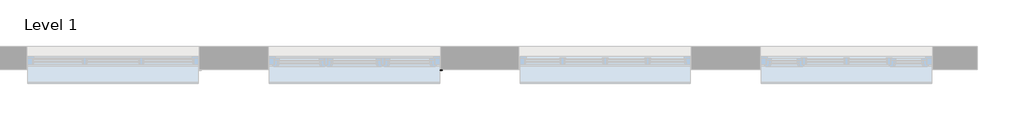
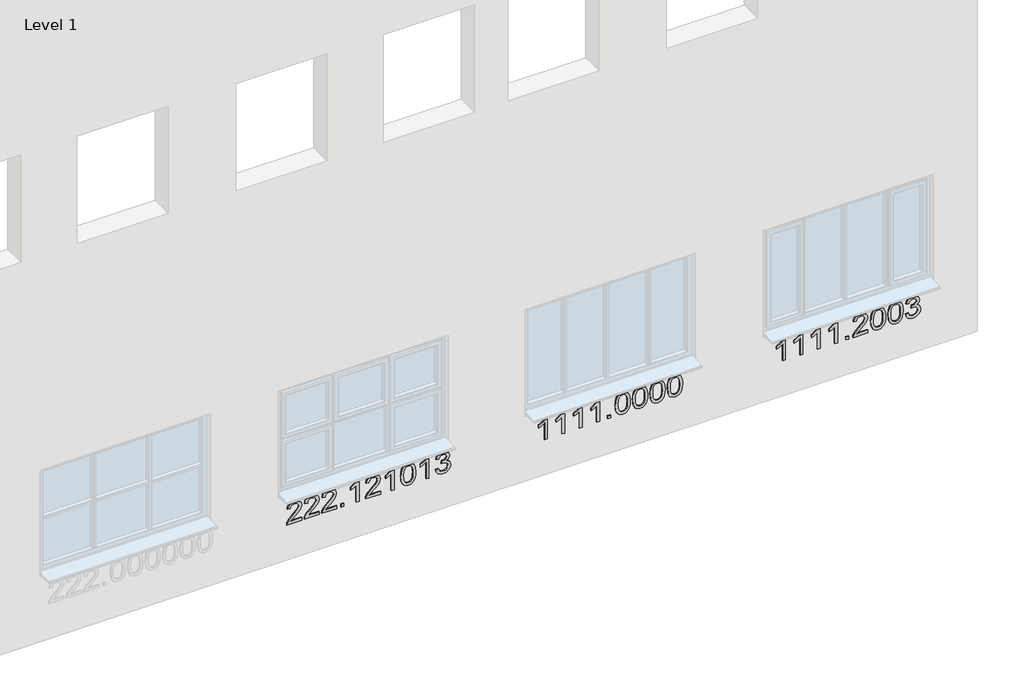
# One storey, part 2 of 2: 3 proxies.
"""IFC4 building model written with IfcOpenShell, lengths in millimetres."""

from ifc_helpers import new_model, si_unit, frame, origin, place, context, project, spatial, polyline, outline, extrude, element, save

model = new_model("IFC4")

# Units and contexts
model_context = context("Model", 3, world=origin())
ifc_project = project(units=[si_unit("LENGTHUNIT", "METRE", prefix="MILLI")], contexts=[model_context])

# Site, building, storey
site = spatial("IfcSite", under=ifc_project)
building = spatial("IfcBuilding", under=site)
storey = spatial("IfcBuildingStorey", under=building, Name="Level 1", Elevation=0.0)

# Proxies
placement = place(None, origin())
element("IfcBuildingElementProxy", 1, Name="200mm Arial", ObjectType="200mm Arial", at=placement, inside=storey, context=model_context, shape_type="SweptSolid", body=[
    extrude(outline(polyline([(359.434856, -158602.2452174), (359.434856, -158700.8866431), (372.212624, -158689.5558776), (396.3702083, -158660.6648783), (430.7794376, -158624.6860191), (455.4030058, -158609.848112), (479.2172337, -158605.3844771), (501.1184751, -158609.5231496), (519.1446929, -158621.9391669), (531.2112223, -158641.4553067), (535.2333988, -158666.8943467), (531.6158925, -158692.1494457), (520.7633736, -158711.7023737), (503.0191987, -158724.8664178), (478.7267243, -158730.9548648), (475.5874646, -158705.8407873), (490.0207016, -158703.1245919), (500.9467968, -158695.2703113), (507.8261901, -158683.0995486), (510.1193212, -158667.433907), (507.7710078, -158652.5162921), (500.7260676, -158640.7256741), (490.2720876, -158633.0553345), (477.6966547, -158630.4985546), (463.668088, -158633.2086187), (449.2471138, -158641.3388108), (407.4066682, -158684.6998353), (378.2949396, -158716.1414831), (351.6357577, -158731.3963232), (334.3207785, -158734.0941245), (334.3207785, -158602.2452174), (359.434856, -158602.2452174)])), frame((0.0, 24202.6264647, 0.0), z_axis=(0.0, 1.0, 0.0), x_axis=(0.0, 0.0, 1.0)), (0.0, 0.0, 1.0), 10.0),
    extrude(outline(polyline([(359.434856, -158448.4214925), (359.434856, -158547.0629181), (372.212624, -158535.7321527), (396.3702083, -158506.8411533), (430.7794376, -158470.8622942), (455.4030058, -158456.0243871), (479.2172337, -158451.5607522), (501.1184751, -158455.6994246), (519.1446929, -158468.115442), (531.2112223, -158487.6315818), (535.2333988, -158513.0706218), (531.6158925, -158538.3257208), (520.7633736, -158557.8786488), (503.0191987, -158571.0426929), (478.7267243, -158577.1311399), (475.5874646, -158552.0170623), (490.0207016, -158549.3008669), (500.9467968, -158541.4465863), (507.8261901, -158529.2758237), (510.1193212, -158513.610182), (507.7710078, -158498.6925671), (500.7260676, -158486.9019492), (490.2720876, -158479.2316096), (477.6966547, -158476.6748297), (463.668088, -158479.3848938), (449.2471138, -158487.5150859), (407.4066682, -158530.8761104), (378.2949396, -158562.3177582), (351.6357577, -158577.5725983), (334.3207785, -158580.2703996), (334.3207785, -158448.4214925), (359.434856, -158448.4214925)])), frame((0.0, 24202.6264647, 0.0), z_axis=(0.0, 1.0, 0.0), x_axis=(0.0, 0.0, 1.0)), (0.0, 0.0, 1.0), 10.0),
    extrude(outline(polyline([(359.434856, -158294.5977676), (359.434856, -158393.2391932), (372.212624, -158381.9084278), (396.3702083, -158353.0174284), (430.7794376, -158317.0385693), (455.4030058, -158302.2006622), (479.2172337, -158297.7370273), (501.1184751, -158301.8756997), (519.1446929, -158314.2917171), (531.2112223, -158333.8078569), (535.2333988, -158359.2468969), (531.6158925, -158384.5019958), (520.7633736, -158404.0549239), (503.0191987, -158417.2189679), (478.7267243, -158423.307415), (475.5874646, -158398.1933374), (490.0207016, -158395.477142), (500.9467968, -158387.6228614), (507.8261901, -158375.4520988), (510.1193212, -158359.7864571), (507.7710078, -158344.8688422), (500.7260676, -158333.0782243), (490.2720876, -158325.4078847), (477.6966547, -158322.8511048), (463.668088, -158325.5611688), (449.2471138, -158333.6913609), (407.4066682, -158377.0523854), (378.2949396, -158408.4940333), (351.6357577, -158423.7488734), (334.3207785, -158426.4466747), (334.3207785, -158294.5977676), (359.434856, -158294.5977676)])), frame((0.0, 24202.6264647, 0.0), z_axis=(0.0, 1.0, 0.0), x_axis=(0.0, 0.0, 1.0)), (0.0, 0.0, 1.0), 10.0),
    extrude(outline(polyline([(-158231.8125737, 24202.6264647), (-158256.9266513, 24202.6264647), (-158256.9266513, 24212.6264647), (-158231.8125737, 24212.6264647), (-158231.8125737, 24202.6264647)])), frame((0.0, 0.0, 334.3207785), z_axis=(0.0, 0.0, 1.0), x_axis=(1.0, 0.0, 0.0)), (0.0, 0.0, 1.0), 25.1140775),
    extrude(outline(polyline([(334.3207785, -158096.824407), (535.2333988, -158096.824407), (535.2333988, -158113.0112148), (522.0754861, -158121.8833022), (508.5006405, -158135.3539146), (485.0052437, -158172.1666396), (461.2645923, -158172.1666396), (473.9442584, -158145.7281869), (490.8913556, -158121.9384845), (334.3207785, -158121.9384845), (334.3207785, -158096.824407)])), frame((0.0, 24202.6264647, 0.0), z_axis=(0.0, 1.0, 0.0), x_axis=(0.0, 0.0, 1.0)), (0.0, 0.0, 1.0), 10.0),
    extrude(outline(polyline([(359.434856, -157908.4688254), (359.434856, -158007.1102511), (372.212624, -157995.7794856), (396.3702083, -157966.8884863), (430.7794376, -157930.9096272), (455.4030058, -157916.07172), (479.2172337, -157911.6080851), (501.1184751, -157915.7467576), (519.1446929, -157928.1627749), (531.2112223, -157947.6789148), (535.2333988, -157973.1179547), (531.6158925, -157998.3730537), (520.7633736, -158017.9259817), (503.0191987, -158031.0900258), (478.7267243, -158037.1784728), (475.5874646, -158012.0643953), (490.0207016, -158009.3481999), (500.9467968, -158001.4939193), (507.8261901, -157989.3231566), (510.1193212, -157973.657515), (507.7710078, -157958.7399001), (500.7260676, -157946.9492821), (490.2720876, -157939.2789425), (477.6966547, -157936.7221627), (463.668088, -157939.4322267), (449.2471138, -157947.5624188), (407.4066682, -157990.9234433), (378.2949396, -158022.3650912), (351.6357577, -158037.6199312), (334.3207785, -158040.3177325), (334.3207785, -157908.4688254), (359.434856, -157908.4688254)])), frame((0.0, 24202.6264647, 0.0), z_axis=(0.0, 1.0, 0.0), x_axis=(0.0, 0.0, 1.0)), (0.0, 0.0, 1.0), 10.0),
    extrude(outline(polyline([(334.3207785, -157789.1769571), (535.2333988, -157789.1769571), (535.2333988, -157805.3637649), (522.0754861, -157814.2358524), (508.5006405, -157827.7064648), (485.0052437, -157864.5191898), (461.2645923, -157864.5191898), (473.9442584, -157838.080737), (490.8913556, -157814.2910347), (334.3207785, -157814.2910347), (334.3207785, -157789.1769571)])), frame((0.0, 24202.6264647, 0.0), z_axis=(0.0, 1.0, 0.0), x_axis=(0.0, 0.0, 1.0)), (0.0, 0.0, 1.0), 10.0),
    extrude(outline(polyline([(433.1584079, -157729.531023), (384.2914162, -157724.5278279), (365.4405296, -157718.2738339), (350.3113825, -157709.5182425), (335.9639847, -157689.7016656), (331.1815188, -157663.6065695), (333.9345024, -157643.3056147), (342.1934532, -157626.8428954), (356.0503417, -157614.108047), (375.5971383, -157604.9907049), (401.1833311, -157599.5092632), (433.1584079, -157597.6821159), (480.3699306, -157602.2438527), (510.0947958, -157614.0160765), (520.8553441, -157622.6858289), (528.7586757, -157634.2741117), (533.614718, -157648.1310002), (535.2333988, -157663.6065695), (532.4988093, -157683.7971596), (524.2950408, -157700.2230907), (510.4933346, -157712.9763332), (490.964932, -157722.1488576), (465.3174256, -157727.6854817), (433.1584079, -157729.531023)]), holes=[polyline([(433.2074588, -157704.4169455), (472.2029503, -157701.3757876), (496.6793657, -157692.2523141), (506.7593324, -157679.621699), (510.1193212, -157663.9008751), (506.3056112, -157647.2971343), (494.8644812, -157634.1760098), (471.8228055, -157625.6411476), (433.2074588, -157622.7961935), (393.7643775, -157625.7392494), (370.8882488, -157634.5684173), (359.9437594, -157647.7140673), (356.2955963, -157663.6065695), (359.9314967, -157679.4990716), (370.8391979, -157692.6447216), (393.7030639, -157701.4738895), (433.2074588, -157704.4169455)])]), frame((0.0, 24202.6264647, 0.0), z_axis=(0.0, 1.0, 0.0), x_axis=(0.0, 0.0, 1.0)), (0.0, 0.0, 1.0), 10.0),
    extrude(outline(polyline([(334.3207785, -157481.5295073), (535.2333988, -157481.5295073), (535.2333988, -157497.7163151), (522.0754861, -157506.5884026), (508.5006405, -157520.0590149), (485.0052437, -157556.8717399), (461.2645923, -157556.8717399), (473.9442584, -157530.4332872), (490.8913556, -157506.6435848), (334.3207785, -157506.6435848), (334.3207785, -157481.5295073)])), frame((0.0, 24202.6264647, 0.0), z_axis=(0.0, 1.0, 0.0), x_axis=(0.0, 0.0, 1.0)), (0.0, 0.0, 1.0), 10.0),
    extrude(outline(polyline([(387.6881933, -157421.8835732), (364.9898741, -157415.6663674), (346.9268682, -157401.9198436), (335.1178561, -157382.1523177), (331.1815188, -157357.872106), (335.7923065, -157331.0289831), (349.6246695, -157309.2626317), (370.0789084, -157294.8416575), (394.5553238, -157290.0346661), (412.5324907, -157292.4381618), (427.223245, -157299.6486489), (438.0389757, -157311.2982454), (444.3910714, -157327.0190693), (451.6383467, -157315.0506418), (461.0193376, -157306.4176776), (472.031272, -157301.1937533), (484.1713779, -157299.4524452), (497.2005318, -157301.2857238), (509.5061846, -157306.7855596), (520.1870252, -157315.7496176), (528.3417427, -157327.9755625), (533.5104848, -157342.4762445), (535.2333988, -157358.2645135), (531.7385198, -157380.1902804), (521.253883, -157398.1919727), (504.4171503, -157411.3498854), (481.865984, -157418.7443135), (478.7267243, -157393.6302359), (492.4609855, -157389.1788638), (502.271172, -157381.3184518), (508.1572839, -157370.5517721), (510.1193212, -157357.3815967), (508.175678, -157344.2359467), (502.3447484, -157333.7390471), (493.5462374, -157326.8596538), (482.6998499, -157324.5665227), (469.6768272, -157327.7303079), (460.5288283, -157337.2216633), (455.120963, -157350.6738816), (453.3183412, -157365.7202552), (453.6126468, -157369.7424317), (428.4985693, -157372.5383349), (431.2454215, -157354.92905), (428.6763789, -157339.1346497), (420.9692511, -157326.3814072), (409.3380487, -157317.9569095), (394.9967822, -157315.1487436), (379.889095, -157317.981435), (367.4301581, -157326.4795091), (359.0792368, -157339.7723118), (356.2955963, -157356.9891892), (358.3189473, -157371.6615495), (364.3890002, -157382.9126071), (375.0453154, -157391.1470325), (390.8274529, -157396.7694956), (387.6881933, -157421.8835732)])), frame((0.0, 24202.6264647, 0.0), z_axis=(0.0, 1.0, 0.0), x_axis=(0.0, 0.0, 1.0)), (0.0, 0.0, 1.0), 10.0),
])
element("IfcBuildingElementProxy", 2, Name="200mm Arial", ObjectType="200mm Arial", at=placement, inside=storey, context=model_context, shape_type="SweptSolid", body=[
    extrude(outline(polyline([(334.3207785, -156436.777074), (535.2333988, -156436.777074), (535.2333988, -156452.9638818), (522.0754861, -156461.8359693), (508.5006405, -156475.3065817), (485.0052437, -156512.1193066), (461.2645923, -156512.1193066), (473.9442584, -156485.6808539), (490.8913556, -156461.8911516), (334.3207785, -156461.8911516), (334.3207785, -156436.777074)])), frame((0.0, 24202.6264647, 0.0), z_axis=(0.0, 1.0, 0.0), x_axis=(0.0, 0.0, 1.0)), (0.0, 0.0, 1.0), 10.0),
    extrude(outline(polyline([(334.3207785, -156282.9533491), (535.2333988, -156282.9533491), (535.2333988, -156299.1401569), (522.0754861, -156308.0122444), (508.5006405, -156321.4828567), (485.0052437, -156358.2955817), (461.2645923, -156358.2955817), (473.9442584, -156331.857129), (490.8913556, -156308.0674267), (334.3207785, -156308.0674267), (334.3207785, -156282.9533491)])), frame((0.0, 24202.6264647, 0.0), z_axis=(0.0, 1.0, 0.0), x_axis=(0.0, 0.0, 1.0)), (0.0, 0.0, 1.0), 10.0),
    extrude(outline(polyline([(334.3207785, -156129.1296242), (535.2333988, -156129.1296242), (535.2333988, -156145.316432), (522.0754861, -156154.1885194), (508.5006405, -156167.6591318), (485.0052437, -156204.4718568), (461.2645923, -156204.4718568), (473.9442584, -156178.0334041), (490.8913556, -156154.2437017), (334.3207785, -156154.2437017), (334.3207785, -156129.1296242)])), frame((0.0, 24202.6264647, 0.0), z_axis=(0.0, 1.0, 0.0), x_axis=(0.0, 0.0, 1.0)), (0.0, 0.0, 1.0), 10.0),
    extrude(outline(polyline([(334.3207785, -155975.3058993), (535.2333988, -155975.3058993), (535.2333988, -155991.4927071), (522.0754861, -156000.3647945), (508.5006405, -156013.8354069), (485.0052437, -156050.6481319), (461.2645923, -156050.6481319), (473.9442584, -156024.2096792), (490.8913556, -156000.4199768), (334.3207785, -156000.4199768), (334.3207785, -155975.3058993)])), frame((0.0, 24202.6264647, 0.0), z_axis=(0.0, 1.0, 0.0), x_axis=(0.0, 0.0, 1.0)), (0.0, 0.0, 1.0), 10.0),
    extrude(outline(polyline([(-155877.9888488, 24202.6264647), (-155903.1029264, 24202.6264647), (-155903.1029264, 24212.6264647), (-155877.9888488, 24212.6264647), (-155877.9888488, 24202.6264647)])), frame((0.0, 0.0, 334.3207785), z_axis=(0.0, 0.0, 1.0), x_axis=(1.0, 0.0, 0.0)), (0.0, 0.0, 1.0), 25.1140775),
    extrude(outline(polyline([(433.1584079, -155837.1784728), (384.2914162, -155832.1752777), (365.4405296, -155825.9212838), (350.3113825, -155817.1656923), (335.9639847, -155797.3491155), (331.1815188, -155771.2540193), (333.9345024, -155750.9530645), (342.1934532, -155734.4903452), (356.0503417, -155721.7554968), (375.5971383, -155712.6381547), (401.1833311, -155707.156713), (433.1584079, -155705.3295658), (480.3699306, -155709.8913025), (510.0947958, -155721.6635263), (520.8553441, -155730.3332787), (528.7586757, -155741.9215615), (533.614718, -155755.77845), (535.2333988, -155771.2540193), (532.4988093, -155791.4446095), (524.2950408, -155807.8705405), (510.4933346, -155820.623783), (490.964932, -155829.7963075), (465.3174256, -155835.3329315), (433.1584079, -155837.1784728)]), holes=[polyline([(433.2074588, -155812.0643953), (472.2029503, -155809.0232375), (496.6793657, -155799.899764), (506.7593324, -155787.2691488), (510.1193212, -155771.5483249), (506.3056112, -155754.9445842), (494.8644812, -155741.8234597), (471.8228055, -155733.2885974), (433.2074588, -155730.4436433), (393.7643775, -155733.3866993), (370.8882488, -155742.2158671), (359.9437594, -155755.3615171), (356.2955963, -155771.2540193), (359.9314967, -155787.1465215), (370.8391979, -155800.2921714), (393.7030639, -155809.1213393), (433.2074588, -155812.0643953)])]), frame((0.0, 24202.6264647, 0.0), z_axis=(0.0, 1.0, 0.0), x_axis=(0.0, 0.0, 1.0)), (0.0, 0.0, 1.0), 10.0),
    extrude(outline(polyline([(433.1584079, -155683.3547479), (384.2914162, -155678.3515528), (365.4405296, -155672.0975589), (350.3113825, -155663.3419674), (335.9639847, -155643.5253906), (331.1815188, -155617.4302944), (333.9345024, -155597.1293396), (342.1934532, -155580.6666203), (356.0503417, -155567.9317719), (375.5971383, -155558.8144298), (401.1833311, -155553.3329881), (433.1584079, -155551.5058408), (480.3699306, -155556.0675776), (510.0947958, -155567.8398014), (520.8553441, -155576.5095538), (528.7586757, -155588.0978366), (533.614718, -155601.9547251), (535.2333988, -155617.4302944), (532.4988093, -155637.6208845), (524.2950408, -155654.0468156), (510.4933346, -155666.8000581), (490.964932, -155675.9725825), (465.3174256, -155681.5092066), (433.1584079, -155683.3547479)]), holes=[polyline([(433.2074588, -155658.2406704), (472.2029503, -155655.1995125), (496.6793657, -155646.0760391), (506.7593324, -155633.4454239), (510.1193212, -155617.7246), (506.3056112, -155601.1208593), (494.8644812, -155587.9997348), (471.8228055, -155579.4648725), (433.2074588, -155576.6199184), (393.7643775, -155579.5629743), (370.8882488, -155588.3921422), (359.9437594, -155601.5377922), (356.2955963, -155617.4302944), (359.9314967, -155633.3227966), (370.8391979, -155646.4684465), (393.7030639, -155655.2976144), (433.2074588, -155658.2406704)])]), frame((0.0, 24202.6264647, 0.0), z_axis=(0.0, 1.0, 0.0), x_axis=(0.0, 0.0, 1.0)), (0.0, 0.0, 1.0), 10.0),
    extrude(outline(polyline([(433.1584079, -155529.531023), (384.2914162, -155524.5278279), (365.4405296, -155518.2738339), (350.3113825, -155509.5182425), (335.9639847, -155489.7016656), (331.1815188, -155463.6065695), (333.9345024, -155443.3056147), (342.1934532, -155426.8428954), (356.0503417, -155414.108047), (375.5971383, -155404.9907049), (401.1833311, -155399.5092632), (433.1584079, -155397.6821159), (480.3699306, -155402.2438527), (510.0947958, -155414.0160765), (520.8553441, -155422.6858289), (528.7586757, -155434.2741117), (533.614718, -155448.1310002), (535.2333988, -155463.6065695), (532.4988093, -155483.7971596), (524.2950408, -155500.2230907), (510.4933346, -155512.9763332), (490.964932, -155522.1488576), (465.3174256, -155527.6854817), (433.1584079, -155529.531023)]), holes=[polyline([(433.2074588, -155504.4169455), (472.2029503, -155501.3757876), (496.6793657, -155492.2523141), (506.7593324, -155479.621699), (510.1193212, -155463.9008751), (506.3056112, -155447.2971343), (494.8644812, -155434.1760098), (471.8228055, -155425.6411476), (433.2074588, -155422.7961935), (393.7643775, -155425.7392494), (370.8882488, -155434.5684173), (359.9437594, -155447.7140673), (356.2955963, -155463.6065695), (359.9314967, -155479.4990717), (370.8391979, -155492.6447216), (393.7030639, -155501.4738895), (433.2074588, -155504.4169455)])]), frame((0.0, 24202.6264647, 0.0), z_axis=(0.0, 1.0, 0.0), x_axis=(0.0, 0.0, 1.0)), (0.0, 0.0, 1.0), 10.0),
    extrude(outline(polyline([(433.1584079, -155375.7072981), (384.2914162, -155370.7041029), (365.4405296, -155364.450109), (350.3113825, -155355.6945175), (335.9639847, -155335.8779407), (331.1815188, -155309.7828445), (333.9345024, -155289.4818898), (342.1934532, -155273.0191705), (356.0503417, -155260.2843221), (375.5971383, -155251.16698), (401.1833311, -155245.6855382), (433.1584079, -155243.858391), (480.3699306, -155248.4201277), (510.0947958, -155260.1923516), (520.8553441, -155268.8621039), (528.7586757, -155280.4503868), (533.614718, -155294.3072753), (535.2333988, -155309.7828445), (532.4988093, -155329.9734347), (524.2950408, -155346.3993658), (510.4933346, -155359.1526083), (490.964932, -155368.3251327), (465.3174256, -155373.8617567), (433.1584079, -155375.7072981)]), holes=[polyline([(433.2074588, -155350.5932205), (472.2029503, -155347.5520627), (496.6793657, -155338.4285892), (506.7593324, -155325.7979741), (510.1193212, -155310.0771501), (506.3056112, -155293.4734094), (494.8644812, -155280.3522849), (471.8228055, -155271.8174226), (433.2074588, -155268.9724685), (393.7643775, -155271.9155245), (370.8882488, -155280.7446924), (359.9437594, -155293.8903424), (356.2955963, -155309.7828445), (359.9314967, -155325.6753467), (370.8391979, -155338.8209967), (393.7030639, -155347.6501646), (433.2074588, -155350.5932205)])]), frame((0.0, 24202.6264647, 0.0), z_axis=(0.0, 1.0, 0.0), x_axis=(0.0, 0.0, 1.0)), (0.0, 0.0, 1.0), 10.0),
])
element("IfcBuildingElementProxy", 3, Name="200mm Arial", ObjectType="200mm Arial", at=placement, inside=storey, context=model_context, shape_type="SweptSolid", body=[
    extrude(outline(polyline([(334.3207785, -154336.777074), (535.2333988, -154336.777074), (535.2333988, -154352.9638818), (522.0754861, -154361.8359693), (508.5006405, -154375.3065817), (485.0052437, -154412.1193066), (461.2645923, -154412.1193066), (473.9442584, -154385.6808539), (490.8913556, -154361.8911516), (334.3207785, -154361.8911516), (334.3207785, -154336.777074)])), frame((0.0, 24202.6264647, 0.0), z_axis=(0.0, 1.0, 0.0), x_axis=(0.0, 0.0, 1.0)), (0.0, 0.0, 1.0), 10.0),
    extrude(outline(polyline([(334.3207785, -154182.9533491), (535.2333988, -154182.9533491), (535.2333988, -154199.1401569), (522.0754861, -154208.0122444), (508.5006405, -154221.4828567), (485.0052437, -154258.2955817), (461.2645923, -154258.2955817), (473.9442584, -154231.857129), (490.8913556, -154208.0674267), (334.3207785, -154208.0674267), (334.3207785, -154182.9533491)])), frame((0.0, 24202.6264647, 0.0), z_axis=(0.0, 1.0, 0.0), x_axis=(0.0, 0.0, 1.0)), (0.0, 0.0, 1.0), 10.0),
    extrude(outline(polyline([(334.3207785, -154029.1296242), (535.2333988, -154029.1296242), (535.2333988, -154045.316432), (522.0754861, -154054.1885194), (508.5006405, -154067.6591318), (485.0052437, -154104.4718568), (461.2645923, -154104.4718568), (473.9442584, -154078.0334041), (490.8913556, -154054.2437017), (334.3207785, -154054.2437017), (334.3207785, -154029.1296242)])), frame((0.0, 24202.6264647, 0.0), z_axis=(0.0, 1.0, 0.0), x_axis=(0.0, 0.0, 1.0)), (0.0, 0.0, 1.0), 10.0),
    extrude(outline(polyline([(334.3207785, -153875.3058993), (535.2333988, -153875.3058993), (535.2333988, -153891.4927071), (522.0754861, -153900.3647945), (508.5006405, -153913.8354069), (485.0052437, -153950.6481319), (461.2645923, -153950.6481319), (473.9442584, -153924.2096792), (490.8913556, -153900.4199768), (334.3207785, -153900.4199768), (334.3207785, -153875.3058993)])), frame((0.0, 24202.6264647, 0.0), z_axis=(0.0, 1.0, 0.0), x_axis=(0.0, 0.0, 1.0)), (0.0, 0.0, 1.0), 10.0),
    extrude(outline(polyline([(-153777.9888488, 24202.6264647), (-153803.1029264, 24202.6264647), (-153803.1029264, 24212.6264647), (-153777.9888488, 24212.6264647), (-153777.9888488, 24202.6264647)])), frame((0.0, 0.0, 334.3207785), z_axis=(0.0, 0.0, 1.0), x_axis=(1.0, 0.0, 0.0)), (0.0, 0.0, 1.0), 25.1140775),
    extrude(outline(polyline([(359.434856, -153608.4688254), (359.434856, -153707.1102511), (372.212624, -153695.7794856), (396.3702083, -153666.8884863), (430.7794376, -153630.9096272), (455.4030058, -153616.07172), (479.2172337, -153611.6080851), (501.1184751, -153615.7467576), (519.1446929, -153628.1627749), (531.2112223, -153647.6789148), (535.2333988, -153673.1179547), (531.6158925, -153698.3730537), (520.7633736, -153717.9259817), (503.0191987, -153731.0900258), (478.7267243, -153737.1784728), (475.5874646, -153712.0643953), (490.0207016, -153709.3481999), (500.9467968, -153701.4939193), (507.8261901, -153689.3231566), (510.1193212, -153673.657515), (507.7710078, -153658.7399001), (500.7260676, -153646.9492821), (490.2720876, -153639.2789425), (477.6966547, -153636.7221627), (463.668088, -153639.4322267), (449.2471138, -153647.5624188), (407.4066682, -153690.9234433), (378.2949396, -153722.3650912), (351.6357577, -153737.6199312), (334.3207785, -153740.3177325), (334.3207785, -153608.4688254), (359.434856, -153608.4688254)])), frame((0.0, 24202.6264647, 0.0), z_axis=(0.0, 1.0, 0.0), x_axis=(0.0, 0.0, 1.0)), (0.0, 0.0, 1.0), 10.0),
    extrude(outline(polyline([(433.1584079, -153583.3547479), (384.2914162, -153578.3515528), (365.4405296, -153572.0975589), (350.3113825, -153563.3419674), (335.9639847, -153543.5253906), (331.1815188, -153517.4302944), (333.9345024, -153497.1293396), (342.1934532, -153480.6666203), (356.0503417, -153467.9317719), (375.5971383, -153458.8144298), (401.1833311, -153453.3329881), (433.1584079, -153451.5058408), (480.3699306, -153456.0675776), (510.0947958, -153467.8398014), (520.8553441, -153476.5095538), (528.7586757, -153488.0978366), (533.614718, -153501.9547251), (535.2333988, -153517.4302944), (532.4988093, -153537.6208845), (524.2950408, -153554.0468156), (510.4933346, -153566.8000581), (490.964932, -153575.9725825), (465.3174256, -153581.5092066), (433.1584079, -153583.3547479)]), holes=[polyline([(433.2074588, -153558.2406704), (472.2029503, -153555.1995125), (496.6793657, -153546.0760391), (506.7593324, -153533.4454239), (510.1193212, -153517.7246), (506.3056112, -153501.1208593), (494.8644812, -153487.9997348), (471.8228055, -153479.4648725), (433.2074588, -153476.6199184), (393.7643775, -153479.5629743), (370.8882488, -153488.3921422), (359.9437594, -153501.5377922), (356.2955963, -153517.4302944), (359.9314967, -153533.3227966), (370.8391979, -153546.4684465), (393.7030639, -153555.2976144), (433.2074588, -153558.2406704)])]), frame((0.0, 24202.6264647, 0.0), z_axis=(0.0, 1.0, 0.0), x_axis=(0.0, 0.0, 1.0)), (0.0, 0.0, 1.0), 10.0),
    extrude(outline(polyline([(433.1584079, -153429.531023), (384.2914162, -153424.5278279), (365.4405296, -153418.2738339), (350.3113825, -153409.5182425), (335.9639847, -153389.7016656), (331.1815188, -153363.6065695), (333.9345024, -153343.3056147), (342.1934532, -153326.8428954), (356.0503417, -153314.108047), (375.5971383, -153304.9907049), (401.1833311, -153299.5092632), (433.1584079, -153297.6821159), (480.3699306, -153302.2438527), (510.0947958, -153314.0160765), (520.8553441, -153322.6858289), (528.7586757, -153334.2741117), (533.614718, -153348.1310002), (535.2333988, -153363.6065695), (532.4988093, -153383.7971596), (524.2950408, -153400.2230907), (510.4933346, -153412.9763332), (490.964932, -153422.1488576), (465.3174256, -153427.6854817), (433.1584079, -153429.531023)]), holes=[polyline([(433.2074588, -153404.4169455), (472.2029503, -153401.3757876), (496.6793657, -153392.2523141), (506.7593324, -153379.621699), (510.1193212, -153363.9008751), (506.3056112, -153347.2971343), (494.8644812, -153334.1760098), (471.8228055, -153325.6411476), (433.2074588, -153322.7961935), (393.7643775, -153325.7392494), (370.8882488, -153334.5684173), (359.9437594, -153347.7140673), (356.2955963, -153363.6065695), (359.9314967, -153379.4990716), (370.8391979, -153392.6447216), (393.7030639, -153401.4738895), (433.2074588, -153404.4169455)])]), frame((0.0, 24202.6264647, 0.0), z_axis=(0.0, 1.0, 0.0), x_axis=(0.0, 0.0, 1.0)), (0.0, 0.0, 1.0), 10.0),
    extrude(outline(polyline([(387.6881933, -153275.7072981), (364.9898741, -153269.4900924), (346.9268682, -153255.7435685), (335.1178561, -153235.9760426), (331.1815188, -153211.6958309), (335.7923065, -153184.852708), (349.6246695, -153163.0863566), (370.0789084, -153148.6653824), (394.5553238, -153143.858391), (412.5324907, -153146.2618867), (427.223245, -153153.4723738), (438.0389757, -153165.1219703), (444.3910714, -153180.8427943), (451.6383467, -153168.8743667), (461.0193376, -153160.2414025), (472.031272, -153155.0174782), (484.1713779, -153153.2761701), (497.2005318, -153155.1094487), (509.5061846, -153160.6092845), (520.1870252, -153169.5733425), (528.3417427, -153181.7992874), (533.5104848, -153196.2999694), (535.2333988, -153212.0882384), (531.7385198, -153234.0140053), (521.253883, -153252.0156976), (504.4171503, -153265.1736103), (481.865984, -153272.5680384), (478.7267243, -153247.4539608), (492.4609855, -153243.0025887), (502.271172, -153235.1421767), (508.1572839, -153224.375497), (510.1193212, -153211.2053216), (508.175678, -153198.0596716), (502.3447484, -153187.562772), (493.5462374, -153180.6833787), (482.6998499, -153178.3902476), (469.6768272, -153181.5540328), (460.5288283, -153191.0453883), (455.120963, -153204.4976065), (453.3183412, -153219.5439801), (453.6126468, -153223.5661566), (428.4985693, -153226.3620598), (431.2454215, -153208.752775), (428.6763789, -153192.9583746), (420.9692511, -153180.2051321), (409.3380487, -153171.7806344), (394.9967822, -153168.9724685), (379.889095, -153171.8051599), (367.4301581, -153180.303234), (359.0792368, -153193.5960368), (356.2955963, -153210.8129141), (358.3189473, -153225.4852744), (364.3890002, -153236.7363321), (375.0453154, -153244.9707574), (390.8274529, -153250.5932205), (387.6881933, -153275.7072981)])), frame((0.0, 24202.6264647, 0.0), z_axis=(0.0, 1.0, 0.0), x_axis=(0.0, 0.0, 1.0)), (0.0, 0.0, 1.0), 10.0),
])

save(model, "model.ifc")
